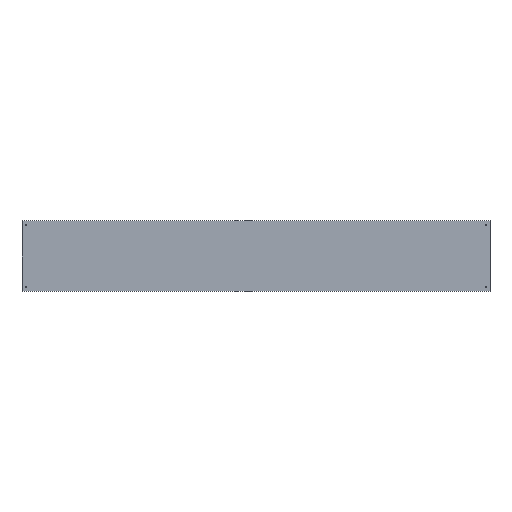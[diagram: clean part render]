
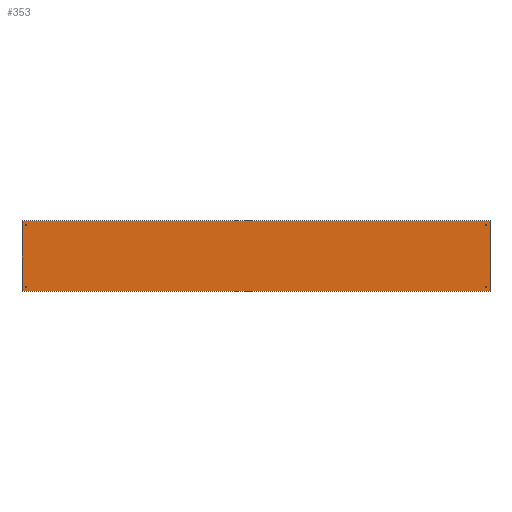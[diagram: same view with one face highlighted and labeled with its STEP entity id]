
A CAD part, top view. The second image highlights one B-rep face of the part: STEP entity #353.
In plain terms, the highlighted planar face has unit normal (0, 0, 1).
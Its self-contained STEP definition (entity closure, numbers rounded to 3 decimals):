
#30=FACE_BOUND('',#82,.T.);
#31=FACE_BOUND('',#83,.T.);
#32=FACE_BOUND('',#84,.T.);
#33=FACE_BOUND('',#85,.T.);
#42=CIRCLE('',#383,5.);
#43=CIRCLE('',#384,5.);
#44=CIRCLE('',#385,5.);
#45=CIRCLE('',#386,5.);
#46=CIRCLE('',#387,5.);
#47=CIRCLE('',#388,5.);
#48=CIRCLE('',#389,5.);
#49=CIRCLE('',#390,5.);
#59=FACE_OUTER_BOUND('',#81,.T.);
#81=EDGE_LOOP('',(#290,#291,#292,#293));
#82=EDGE_LOOP('',(#294,#295));
#83=EDGE_LOOP('',(#296,#297));
#84=EDGE_LOOP('',(#298,#299));
#85=EDGE_LOOP('',(#300,#301));
#101=LINE('',#524,#133);
#103=LINE('',#530,#135);
#110=LINE('',#543,#142);
#117=LINE('',#572,#149);
#133=VECTOR('',#413,304.8);
#135=VECTOR('',#417,304.8);
#142=VECTOR('',#426,304.8);
#149=VECTOR('',#461,304.8);
#158=VERTEX_POINT('',#509);
#165=VERTEX_POINT('',#522);
#167=VERTEX_POINT('',#527);
#168=VERTEX_POINT('',#529);
#182=VERTEX_POINT('',#574);
#183=VERTEX_POINT('',#575);
#184=VERTEX_POINT('',#578);
#185=VERTEX_POINT('',#579);
#186=VERTEX_POINT('',#582);
#187=VERTEX_POINT('',#583);
#188=VERTEX_POINT('',#586);
#189=VERTEX_POINT('',#587);
#197=EDGE_CURVE('',#165,#158,#101,.T.);
#199=EDGE_CURVE('',#167,#168,#103,.T.);
#206=EDGE_CURVE('',#158,#167,#110,.T.);
#221=EDGE_CURVE('',#168,#165,#117,.T.);
#222=EDGE_CURVE('',#182,#183,#42,.T.);
#223=EDGE_CURVE('',#183,#182,#43,.T.);
#224=EDGE_CURVE('',#184,#185,#44,.T.);
#225=EDGE_CURVE('',#185,#184,#45,.T.);
#226=EDGE_CURVE('',#186,#187,#46,.T.);
#227=EDGE_CURVE('',#187,#186,#47,.T.);
#228=EDGE_CURVE('',#188,#189,#48,.T.);
#229=EDGE_CURVE('',#189,#188,#49,.T.);
#290=ORIENTED_EDGE('',*,*,#197,.F.);
#291=ORIENTED_EDGE('',*,*,#221,.F.);
#292=ORIENTED_EDGE('',*,*,#199,.F.);
#293=ORIENTED_EDGE('',*,*,#206,.F.);
#294=ORIENTED_EDGE('',*,*,#222,.T.);
#295=ORIENTED_EDGE('',*,*,#223,.T.);
#296=ORIENTED_EDGE('',*,*,#224,.T.);
#297=ORIENTED_EDGE('',*,*,#225,.T.);
#298=ORIENTED_EDGE('',*,*,#226,.T.);
#299=ORIENTED_EDGE('',*,*,#227,.T.);
#300=ORIENTED_EDGE('',*,*,#228,.T.);
#301=ORIENTED_EDGE('',*,*,#229,.T.);
#343=PLANE('',#382);
#353=ADVANCED_FACE('',(#59,#30,#31,#32,#33),#343,.T.);
#382=AXIS2_PLACEMENT_3D('',#573,#462,#463);
#383=AXIS2_PLACEMENT_3D('',#576,#464,#465);
#384=AXIS2_PLACEMENT_3D('',#577,#466,#467);
#385=AXIS2_PLACEMENT_3D('',#580,#468,#469);
#386=AXIS2_PLACEMENT_3D('',#581,#470,#471);
#387=AXIS2_PLACEMENT_3D('',#584,#472,#473);
#388=AXIS2_PLACEMENT_3D('',#585,#474,#475);
#389=AXIS2_PLACEMENT_3D('',#588,#476,#477);
#390=AXIS2_PLACEMENT_3D('',#589,#478,#479);
#413=DIRECTION('',(0.,-1.,0.));
#417=DIRECTION('',(0.,1.,0.));
#426=DIRECTION('',(-1.,0.,0.));
#461=DIRECTION('',(1.,0.,0.));
#462=DIRECTION('center_axis',(0.,0.,1.));
#463=DIRECTION('ref_axis',(-1.,0.,0.));
#464=DIRECTION('center_axis',(0.,0.,-1.));
#465=DIRECTION('ref_axis',(1.,0.,0.));
#466=DIRECTION('center_axis',(0.,0.,-1.));
#467=DIRECTION('ref_axis',(1.,0.,0.));
#468=DIRECTION('center_axis',(0.,0.,-1.));
#469=DIRECTION('ref_axis',(1.,0.,0.));
#470=DIRECTION('center_axis',(0.,0.,-1.));
#471=DIRECTION('ref_axis',(1.,0.,0.));
#472=DIRECTION('center_axis',(0.,0.,-1.));
#473=DIRECTION('ref_axis',(1.,0.,0.));
#474=DIRECTION('center_axis',(0.,0.,-1.));
#475=DIRECTION('ref_axis',(1.,0.,0.));
#476=DIRECTION('center_axis',(0.,0.,-1.));
#477=DIRECTION('ref_axis',(1.,0.,0.));
#478=DIRECTION('center_axis',(0.,0.,-1.));
#479=DIRECTION('ref_axis',(1.,0.,0.));
#509=CARTESIAN_POINT('',(3000.,-225.,1.5));
#522=CARTESIAN_POINT('',(3000.,225.,1.5));
#524=CARTESIAN_POINT('',(3000.,225.,1.5));
#527=CARTESIAN_POINT('',(0.,-225.,1.5));
#529=CARTESIAN_POINT('',(0.,225.,1.5));
#530=CARTESIAN_POINT('',(0.,-225.,1.5));
#543=CARTESIAN_POINT('',(3000.,-225.,1.5));
#572=CARTESIAN_POINT('',(3000.,225.,1.5));
#573=CARTESIAN_POINT('Origin',(3000.,225.,1.5));
#574=CARTESIAN_POINT('',(30.,198.5,1.5));
#575=CARTESIAN_POINT('',(20.,198.5,1.5));
#576=CARTESIAN_POINT('Origin',(25.,198.5,1.5));
#577=CARTESIAN_POINT('Origin',(25.,198.5,1.5));
#578=CARTESIAN_POINT('',(30.,-198.5,1.5));
#579=CARTESIAN_POINT('',(20.,-198.5,1.5));
#580=CARTESIAN_POINT('Origin',(25.,-198.5,1.5));
#581=CARTESIAN_POINT('Origin',(25.,-198.5,1.5));
#582=CARTESIAN_POINT('',(2980.,198.5,1.5));
#583=CARTESIAN_POINT('',(2970.,198.5,1.5));
#584=CARTESIAN_POINT('Origin',(2975.,198.5,1.5));
#585=CARTESIAN_POINT('Origin',(2975.,198.5,1.5));
#586=CARTESIAN_POINT('',(2980.,-198.5,1.5));
#587=CARTESIAN_POINT('',(2970.,-198.5,1.5));
#588=CARTESIAN_POINT('Origin',(2975.,-198.5,1.5));
#589=CARTESIAN_POINT('Origin',(2975.,-198.5,1.5));
